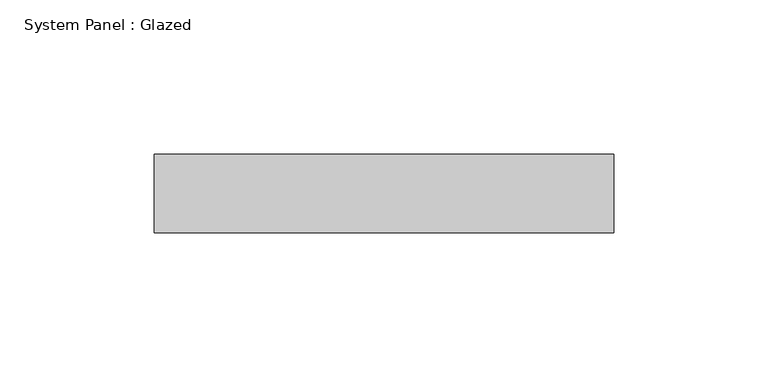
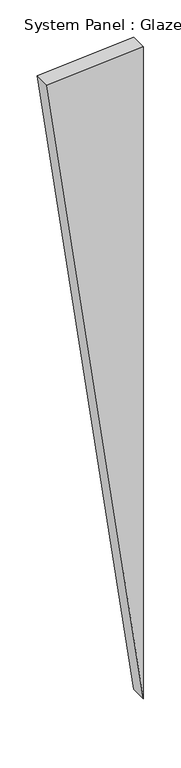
"""IFC4 building model written with IfcOpenShell, lengths in millimetres: plate geometry, System Panel : Glazed."""

from ifc_helpers import new_model, si_unit, origin, place, context, project, spatial, faceted_brep, source, transform, mapped, element, save


def system_panel_glazed_3e724de7(model_context):
    return source(origin(), model_context, "Body", "Brep", [
        faceted_brep([(74.4433101, -44.45, 0.024954), (74.4419444, -44.45, 1064.2946498), (-74.4433101, -44.45, 1053.854163), (74.0874565, -19.05, 0.0), (-74.4433101, -19.05, 1053.854163), (74.4419444, -19.05, 1064.2946498)], [[[0, 1, 2]], [[3, 4, 5]], [[1, 0, 3, 5]], [[2, 1, 5, 4]], [[0, 2, 4, 3]]]),
    ])


if __name__ == "__main__":
    model = new_model("IFC4")
    model_context = context("Model", 3, world=origin())
    ifc_project = project(units=[si_unit("LENGTHUNIT", "METRE", prefix="MILLI")], contexts=[model_context])
    site = spatial("IfcSite", under=ifc_project)
    building = spatial("IfcBuilding", under=site)
    placement = place(None, origin())
    system_panel_glazed_shape = system_panel_glazed_3e724de7(model_context)
    element("IfcPlate", 1, ObjectType="System Panel : Glazed", at=placement, inside=building, context=model_context, shape_type="MappedRepresentation", body=[
        mapped(system_panel_glazed_shape, transform((0.0, 0.0, 0.0), x_axis=(1.0, 0.0, 0.0), y_axis=(0.0, 1.0, 0.0), z_axis=(0.0, 0.0, 1.0))),
    ])
    save(model, "model.ifc")
